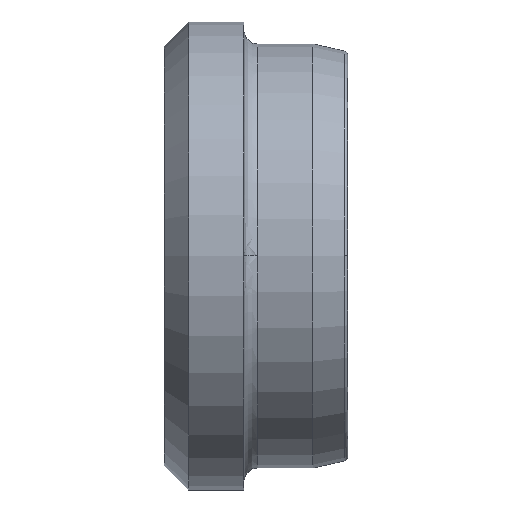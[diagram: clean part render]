
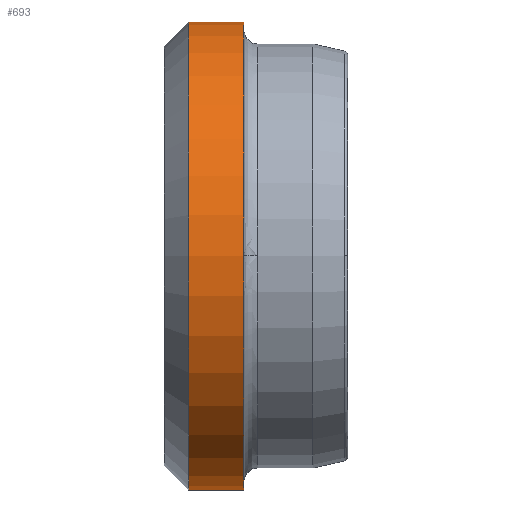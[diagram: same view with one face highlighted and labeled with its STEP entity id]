
A CAD part, top view. The second image highlights one B-rep face of the part: STEP entity #693.
In plain terms, the highlighted cylindrical face has radius 13.5 mm (diameter 27 mm), a partial arc.
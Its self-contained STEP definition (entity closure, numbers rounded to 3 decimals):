
#652=CARTESIAN_POINT('',(-3.538,-6.633,0.0));
#653=DIRECTION('',(1.0,0.0,0.0));
#654=DIRECTION('',(0.0,1.0,0.0));
#655=AXIS2_PLACEMENT_3D('',#652,#653,#654);
#656=CYLINDRICAL_SURFACE('',#655,13.5);
#657=CARTESIAN_POINT('',(-4.425,6.867,0.0));
#658=VERTEX_POINT('',#657);
#659=CARTESIAN_POINT('',(-1.25,6.867,0.0));
#660=VERTEX_POINT('',#659);
#661=CARTESIAN_POINT('',(-4.425,6.867,0.0));
#662=DIRECTION('',(1.0,0.0,0.0));
#663=VECTOR('',#662,3.175);
#664=LINE('',#661,#663);
#665=EDGE_CURVE('',#658,#660,#664,.T.);
#666=ORIENTED_EDGE('',*,*,#665,.F.);
#667=CARTESIAN_POINT('',(-4.425,-20.133,0.));
#668=VERTEX_POINT('',#667);
#669=CARTESIAN_POINT('',(-4.425,-6.633,0.0));
#670=DIRECTION('',(-1.0,0.0,0.0));
#671=DIRECTION('',(0.0,-1.0,0.0));
#672=AXIS2_PLACEMENT_3D('',#669,#670,#671);
#673=CIRCLE('',#672,13.5);
#674=EDGE_CURVE('',#668,#658,#673,.T.);
#675=ORIENTED_EDGE('',*,*,#674,.F.);
#676=CARTESIAN_POINT('',(-1.25,-20.133,0.));
#677=VERTEX_POINT('',#676);
#678=CARTESIAN_POINT('',(-1.25,-20.133,0.));
#679=DIRECTION('',(-1.0,0.0,0.0));
#680=VECTOR('',#679,3.175);
#681=LINE('',#678,#680);
#682=EDGE_CURVE('',#677,#668,#681,.T.);
#683=ORIENTED_EDGE('',*,*,#682,.F.);
#684=CARTESIAN_POINT('',(-1.25,-6.633,0.0));
#685=DIRECTION('',(1.0,0.0,0.0));
#686=DIRECTION('',(0.0,1.0,0.0));
#687=AXIS2_PLACEMENT_3D('',#684,#685,#686);
#688=CIRCLE('',#687,13.5);
#689=EDGE_CURVE('',#660,#677,#688,.T.);
#690=ORIENTED_EDGE('',*,*,#689,.F.);
#691=EDGE_LOOP('',(#666,#675,#683,#690));
#692=FACE_OUTER_BOUND('',#691,.T.);
#693=ADVANCED_FACE('',(#692),#656,.T.);
